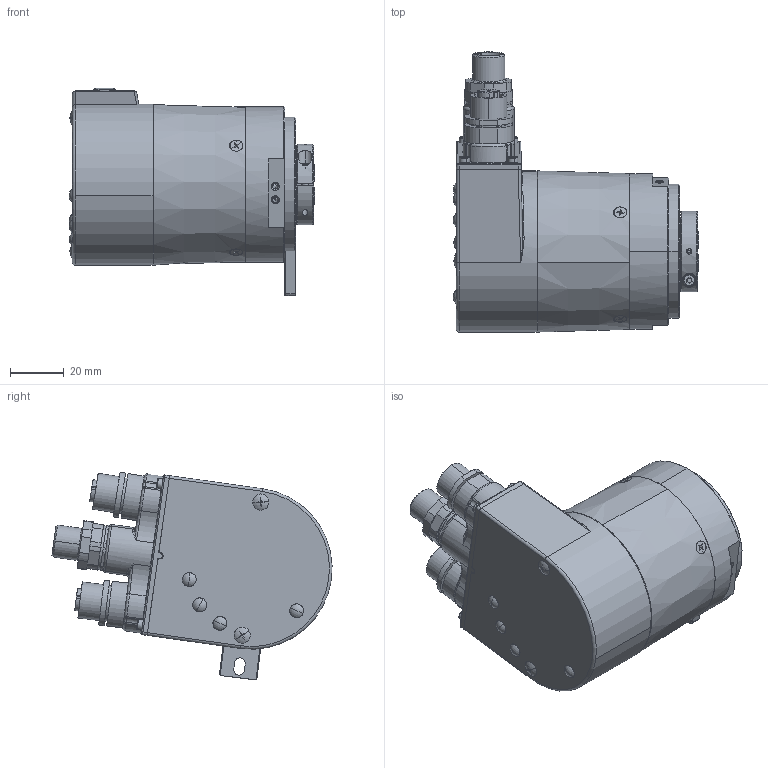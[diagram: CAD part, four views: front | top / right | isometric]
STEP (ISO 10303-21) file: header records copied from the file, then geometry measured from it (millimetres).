
FILE_DESCRIPTION (( 'STEP AP203' ), '1' );
FILE_NAME ('8.5888.14C2.C2.STEP', '2013-10-07T13:28:23', ( 'LauferA' ), ( 'Microsoft' ), 'SwSTEP 2.0', 'SolidWorks 2013', '' );
FILE_SCHEMA (( 'CONFIG_CONTROL_DESIGN' ));
Length unit declared in the file: millimetre
Products named in the file (1): 8.5888.14C2.C2
Bounding box: 91.4 x 104.23 x 77.16 mm (x, y, z)
Volume: 117508.4 mm3; surface area: 83011.9 mm2
Topology: 31 solids, 33 shells, 2729 faces, 7221 edges, 4572 vertices
Faces by surface type: cylinder 1097, plane 881, cone 390, torus 194, bspline 111, sphere 56
Entity records: 92750 total; most frequent: CARTESIAN_POINT 25876, DIRECTION 14191, ORIENTED_EDGE 14162, EDGE_CURVE 7081, AXIS2_PLACEMENT_3D 5660, VERTEX_POINT 4536, CIRCLE 3041, EDGE_LOOP 2947
